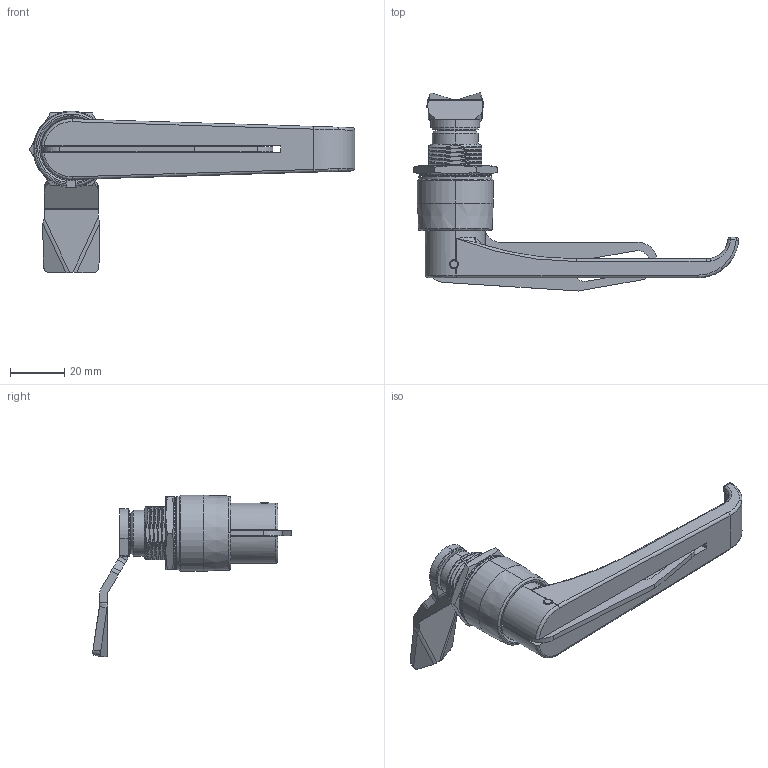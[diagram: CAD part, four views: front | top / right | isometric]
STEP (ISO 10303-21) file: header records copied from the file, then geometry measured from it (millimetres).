
FILE_DESCRIPTION (( 'STEP AP214' ), '1' );
FILE_NAME ('CUYUE.MS325.STEP', '2026-07-06T06:41:54', ( '' ), ( '' ), 'SwSTEP 2.0', 'SolidWorks 2020', '' );
FILE_SCHEMA (( 'AUTOMOTIVE_DESIGN' ));
Length unit declared in the file: millimetre
Products named in the file (1): CUYUE.MS325
Bounding box: 120.48 x 73.42 x 59.95 mm (x, y, z)
Volume: 35486.2 mm3; surface area: 25685.9 mm2
Topology: 8 solids, 8 shells, 1021 faces, 3014 edges, 1963 vertices
Faces by surface type: cylinder 342, plane 338, bspline 212, cone 129
Entity records: 56672 total; most frequent: CARTESIAN_POINT 33589, ORIENTED_EDGE 6024, DIRECTION 3057, EDGE_CURVE 3012, VERTEX_POINT 1963, B_SPLINE_CURVE_WITH_KNOTS 1899, AXIS2_PLACEMENT_3D 1177, EDGE_LOOP 1059
